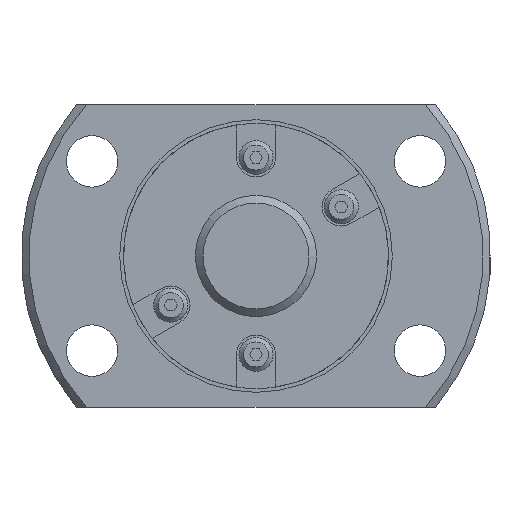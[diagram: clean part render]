
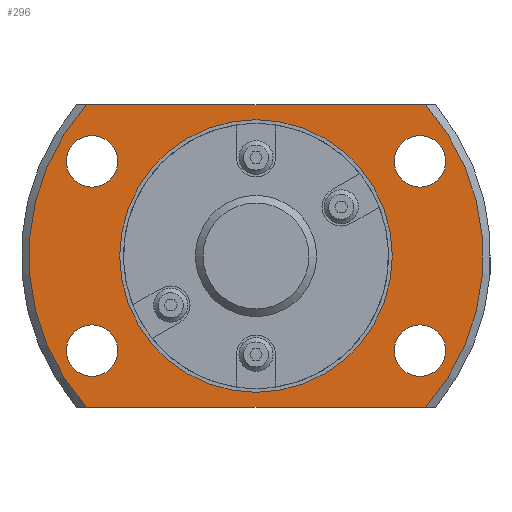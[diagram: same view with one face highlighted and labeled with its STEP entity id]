
A CAD part, left-side view. The second image highlights one B-rep face of the part: STEP entity #296.
In plain terms, the highlighted planar face has unit normal (-1, 0, 0).
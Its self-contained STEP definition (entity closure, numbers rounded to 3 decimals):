
#296 = ADVANCED_FACE( '', ( #626, #627, #628, #629, #630, #631 ), #632, .F. );
#626 = FACE_OUTER_BOUND( '', #992, .T. );
#627 = FACE_BOUND( '', #993, .T. );
#628 = FACE_BOUND( '', #994, .T. );
#629 = FACE_BOUND( '', #995, .T. );
#630 = FACE_BOUND( '', #996, .T. );
#631 = FACE_BOUND( '', #997, .T. );
#632 = PLANE( '', #998 );
#992 = EDGE_LOOP( '', ( #1664, #1665, #1666, #1667 ) );
#993 = EDGE_LOOP( '', ( #1668 ) );
#994 = EDGE_LOOP( '', ( #1669 ) );
#995 = EDGE_LOOP( '', ( #1670 ) );
#996 = EDGE_LOOP( '', ( #1671 ) );
#997 = EDGE_LOOP( '', ( #1672 ) );
#998 = AXIS2_PLACEMENT_3D( '', #1673, #1674, #1675 );
#1664 = ORIENTED_EDGE( '', *, *, #2115, .F. );
#1665 = ORIENTED_EDGE( '', *, *, #2083, .T. );
#1666 = ORIENTED_EDGE( '', *, *, #2171, .F. );
#1667 = ORIENTED_EDGE( '', *, *, #2167, .T. );
#1668 = ORIENTED_EDGE( '', *, *, #2172, .T. );
#1669 = ORIENTED_EDGE( '', *, *, #2173, .T. );
#1670 = ORIENTED_EDGE( '', *, *, #2174, .T. );
#1671 = ORIENTED_EDGE( '', *, *, #2175, .T. );
#1672 = ORIENTED_EDGE( '', *, *, #2160, .T. );
#1673 = CARTESIAN_POINT( '', ( 17., 8.75, 0. ) );
#1674 = DIRECTION( '', ( 1., 0., 0. ) );
#1675 = DIRECTION( '', ( 0., 0., -1. ) );
#2083 = EDGE_CURVE( '', #2480, #2487, #2489, .T. );
#2115 = EDGE_CURVE( '', #2480, #2535, #2536, .T. );
#2160 = EDGE_CURVE( '', #2596, #2596, #2597, .T. );
#2167 = EDGE_CURVE( '', #2602, #2535, #2606, .T. );
#2171 = EDGE_CURVE( '', #2602, #2487, #2610, .T. );
#2172 = EDGE_CURVE( '', #2611, #2611, #2612, .T. );
#2173 = EDGE_CURVE( '', #2613, #2613, #2614, .T. );
#2174 = EDGE_CURVE( '', #2615, #2615, #2616, .T. );
#2175 = EDGE_CURVE( '', #2617, #2617, #2618, .T. );
#2480 = VERTEX_POINT( '', #3018 );
#2487 = VERTEX_POINT( '', #3033 );
#2489 = LINE( '', #3038, #3039 );
#2535 = VERTEX_POINT( '', #3095 );
#2536 = CIRCLE( '', #3096, 15. );
#2596 = VERTEX_POINT( '', #3175 );
#2597 = CIRCLE( '', #3176, 8.75 );
#2602 = VERTEX_POINT( '', #3181 );
#2606 = LINE( '', #3190, #3191 );
#2610 = CIRCLE( '', #3196, 15. );
#2611 = VERTEX_POINT( '', #3197 );
#2612 = CIRCLE( '', #3198, 1.7 );
#2613 = VERTEX_POINT( '', #3199 );
#2614 = CIRCLE( '', #3200, 1.7 );
#2615 = VERTEX_POINT( '', #3201 );
#2616 = CIRCLE( '', #3202, 1.7 );
#2617 = VERTEX_POINT( '', #3203 );
#2618 = CIRCLE( '', #3204, 1.7 );
#3018 = CARTESIAN_POINT( '', ( 17., 11.18, -10. ) );
#3033 = CARTESIAN_POINT( '', ( 17., -11.18, -10. ) );
#3038 = CARTESIAN_POINT( '', ( 17., 8.75, -10. ) );
#3039 = VECTOR( '', #3460, 1000. );
#3095 = CARTESIAN_POINT( '', ( 17., 11.18, 10. ) );
#3096 = AXIS2_PLACEMENT_3D( '', #3501, #3502, #3503 );
#3175 = CARTESIAN_POINT( '', ( 17., 0., -8.75 ) );
#3176 = AXIS2_PLACEMENT_3D( '', #3556, #3557, #3558 );
#3181 = CARTESIAN_POINT( '', ( 17., -11.18, 10. ) );
#3190 = CARTESIAN_POINT( '', ( 17., 8.75, 10. ) );
#3191 = VECTOR( '', #3561, 1000. );
#3196 = AXIS2_PLACEMENT_3D( '', #3563, #3564, #3565 );
#3197 = CARTESIAN_POINT( '', ( 17., -10.825, -7.95 ) );
#3198 = AXIS2_PLACEMENT_3D( '', #3566, #3567, #3568 );
#3199 = CARTESIAN_POINT( '', ( 17., -10.825, 4.55 ) );
#3200 = AXIS2_PLACEMENT_3D( '', #3569, #3570, #3571 );
#3201 = CARTESIAN_POINT( '', ( 17., 10.825, -7.95 ) );
#3202 = AXIS2_PLACEMENT_3D( '', #3572, #3573, #3574 );
#3203 = CARTESIAN_POINT( '', ( 17., 10.825, 4.55 ) );
#3204 = AXIS2_PLACEMENT_3D( '', #3575, #3576, #3577 );
#3460 = DIRECTION( '', ( 0., -1., 0. ) );
#3501 = CARTESIAN_POINT( '', ( 17., 0., 0. ) );
#3502 = DIRECTION( '', ( 1., 0., 0. ) );
#3503 = DIRECTION( '', ( 0., 0., -1. ) );
#3556 = CARTESIAN_POINT( '', ( 17., 0., 0. ) );
#3557 = DIRECTION( '', ( 1., 0., 0. ) );
#3558 = DIRECTION( '', ( 0., 0., -1. ) );
#3561 = DIRECTION( '', ( 0., 1., 0. ) );
#3563 = CARTESIAN_POINT( '', ( 17., 0., 0. ) );
#3564 = DIRECTION( '', ( 1., 0., 0. ) );
#3565 = DIRECTION( '', ( 0., 0., -1. ) );
#3566 = CARTESIAN_POINT( '', ( 17., -10.825, -6.25 ) );
#3567 = DIRECTION( '', ( 1., 0., 0. ) );
#3568 = DIRECTION( '', ( 0., 0., -1. ) );
#3569 = CARTESIAN_POINT( '', ( 17., -10.825, 6.25 ) );
#3570 = DIRECTION( '', ( 1., 0., 0. ) );
#3571 = DIRECTION( '', ( 0., 0., -1. ) );
#3572 = CARTESIAN_POINT( '', ( 17., 10.825, -6.25 ) );
#3573 = DIRECTION( '', ( 1., 0., 0. ) );
#3574 = DIRECTION( '', ( 0., 0., -1. ) );
#3575 = CARTESIAN_POINT( '', ( 17., 10.825, 6.25 ) );
#3576 = DIRECTION( '', ( 1., 0., 0. ) );
#3577 = DIRECTION( '', ( 0., 0., -1. ) );
